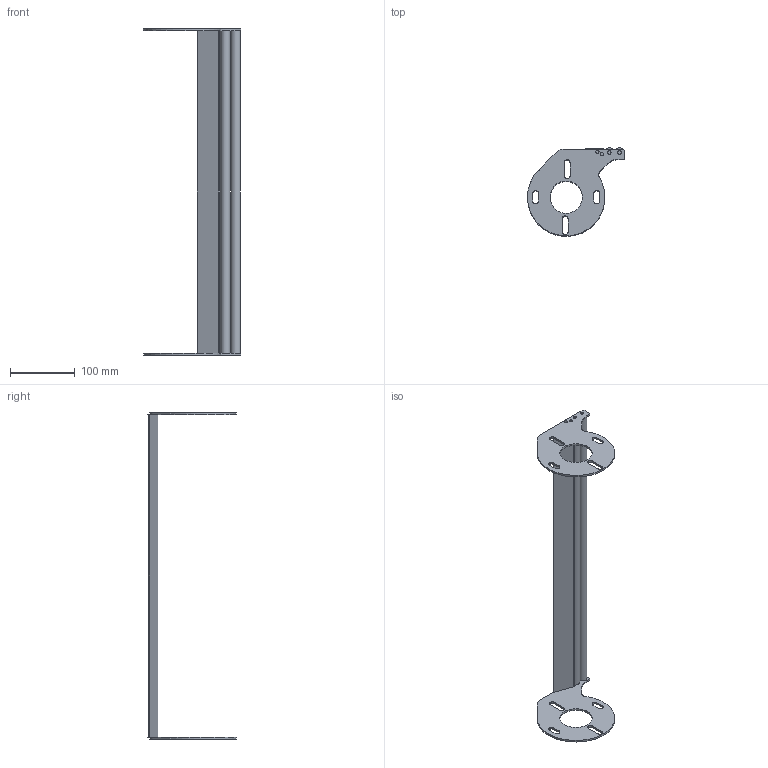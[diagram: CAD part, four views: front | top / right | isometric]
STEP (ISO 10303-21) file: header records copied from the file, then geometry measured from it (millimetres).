
FILE_DESCRIPTION (( 'STEP AP214' ), '1' );
FILE_NAME ('F2 1800 TG1M.step', '2017-04-05T07:32:03', ( '' ), ( '' ), 'SwSTEP 2.0', 'SolidWorks 2015', '' );
FILE_SCHEMA (( 'AUTOMOTIVE_DESIGN' ));
Length unit declared in the file: millimetre
Products named in the file (1): F2 1800 TG1M
Bounding box: 150.4 x 136.54 x 506 mm (x, y, z)
Volume: 378554.8 mm3; surface area: 138133.8 mm2
Topology: 1 solids, 1 shells, 114 faces, 312 edges, 204 vertices
Faces by surface type: plane 61, cylinder 53
Entity records: 3969 total; most frequent: DIRECTION 656, CARTESIAN_POINT 631, ORIENTED_EDGE 624, EDGE_CURVE 312, AXIS2_PLACEMENT_3D 229, VERTEX_POINT 204, VECTOR 198, LINE 198
